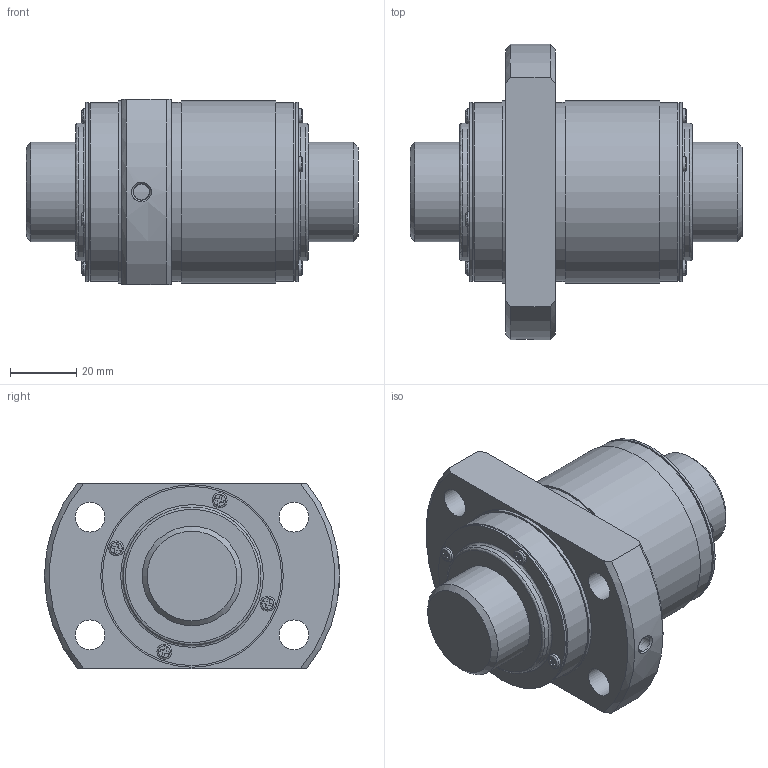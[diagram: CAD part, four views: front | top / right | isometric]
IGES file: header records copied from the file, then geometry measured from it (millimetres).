
Start section: Data from Parasolid IGES Translator 26.0.171, Copyright(c) 2006 Siemens PLM Software. All Rights Reserved.
Global section: file name: WTF3060-2ZZ+100.1LC7T_000_rev.igs; native system: By Siemens PLM Incorporated; preprocessor: XPlus GENERIC/IGES 26.0.171; author: Noname; organization: Noname; date: 20250611.064048; units: millimetre
Bounding box: 100.1 x 89 x 56 mm (x, y, z)
Surface area: 40000.6 mm2 (no closed solid volume)
Topology: 0 solids, 0 shells, 214 faces, 1080 edges, 1008 vertices
Faces by surface type: extrusion 127, revolution 87
